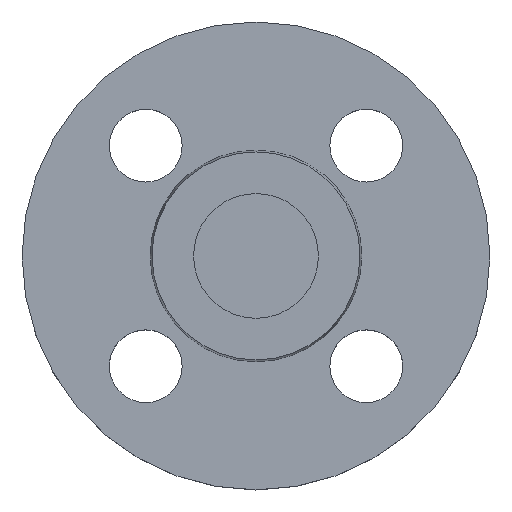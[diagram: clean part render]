
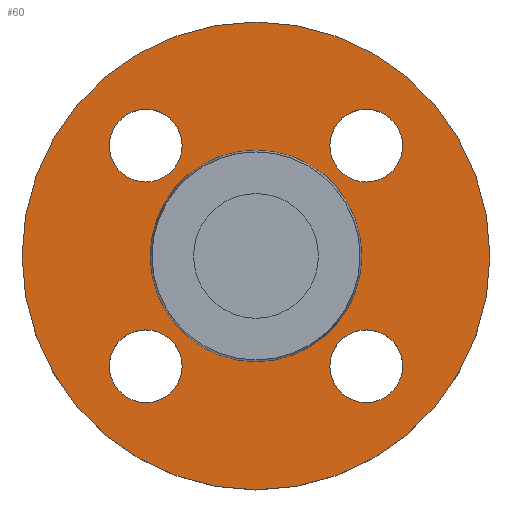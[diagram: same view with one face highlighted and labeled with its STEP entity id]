
A CAD part, top view. The second image highlights one B-rep face of the part: STEP entity #60.
In plain terms, the highlighted planar face has unit normal (0, 0, 1).
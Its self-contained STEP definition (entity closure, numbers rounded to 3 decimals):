
#4 = EDGE_CURVE ( 'NONE', #539, #370, #295, .T. ) ;
#6 = CARTESIAN_POINT ( 'NONE',  ( 28.213, 21.213, -2. ) ) ;
#56 = AXIS2_PLACEMENT_3D ( 'NONE', #601, #602, #603 ) ;
#58 = DIRECTION ( 'NONE',  ( 1., 0., 0. ) ) ;
#60 = ADVANCED_FACE ( 'NONE', ( #592, #593, #594, #595, #596, #597 ), #600, .T. ) ;
#63 = CARTESIAN_POINT ( 'NONE',  ( -21.213, -21.213, -2. ) ) ;
#64 = DIRECTION ( 'NONE',  ( 0., 0., -1. ) ) ;
#71 = CIRCLE ( 'NONE', #85, 7. ) ;
#76 = DIRECTION ( 'NONE',  ( -1., 0., 0. ) ) ;
#77 = DIRECTION ( 'NONE',  ( 0., 0., -1. ) ) ;
#78 = CARTESIAN_POINT ( 'NONE',  ( 0., 0., -2. ) ) ;
#80 = EDGE_CURVE ( 'NONE', #414, #548, #71, .T. ) ;
#81 = AXIS2_PLACEMENT_3D ( 'NONE', #78, #77, #76 ) ;
#85 = AXIS2_PLACEMENT_3D ( 'NONE', #604, #605, #606 ) ;
#87 = CIRCLE ( 'NONE', #102, 7. ) ;
#90 = EDGE_CURVE ( 'NONE', #474, #381, #87, .T. ) ;
#94 = DIRECTION ( 'NONE',  ( 1., 0., 0. ) ) ;
#95 = DIRECTION ( 'NONE',  ( 0., 0., -1. ) ) ;
#96 = CARTESIAN_POINT ( 'NONE',  ( 21.213, -21.213, -2. ) ) ;
#102 = AXIS2_PLACEMENT_3D ( 'NONE', #607, #608, #609 ) ;
#104 = CARTESIAN_POINT ( 'NONE',  ( 14.213, 21.213, -2. ) ) ;
#106 = DIRECTION ( 'NONE',  ( -1., 0., 0. ) ) ;
#107 = CARTESIAN_POINT ( 'NONE',  ( 0., 0., -2. ) ) ;
#108 = DIRECTION ( 'NONE',  ( 0., 0., -1. ) ) ;
#109 = CARTESIAN_POINT ( 'NONE',  ( -45., 0., -2. ) ) ;
#113 = CARTESIAN_POINT ( 'NONE',  ( 20.353, 0., -2. ) ) ;
#116 = DIRECTION ( 'NONE',  ( 0., 0., -1. ) ) ;
#117 = CARTESIAN_POINT ( 'NONE',  ( 0., 0., -2. ) ) ;
#118 = DIRECTION ( 'NONE',  ( -1., 0., 0. ) ) ;
#124 = AXIS2_PLACEMENT_3D ( 'NONE', #117, #307, #118 ) ;
#131 = CARTESIAN_POINT ( 'NONE',  ( -14.213, -21.213, -2. ) ) ;
#134 = CARTESIAN_POINT ( 'NONE',  ( -28.213, 21.213, -2. ) ) ;
#149 = CARTESIAN_POINT ( 'NONE',  ( -28.213, -21.213, -2. ) ) ;
#154 = CARTESIAN_POINT ( 'NONE',  ( 28.213, -21.213, -2. ) ) ;
#155 = CARTESIAN_POINT ( 'NONE',  ( -20.353, 0., -2. ) ) ;
#167 = CIRCLE ( 'NONE', #124, 20.353 ) ;
#176 = CIRCLE ( 'NONE', #178, 45. ) ;
#178 = AXIS2_PLACEMENT_3D ( 'NONE', #652, #653, #655 ) ;
#181 = CIRCLE ( 'NONE', #716, 7. ) ;
#193 = CIRCLE ( 'NONE', #196, 7. ) ;
#195 = CIRCLE ( 'NONE', #263, 20.353 ) ;
#196 = AXIS2_PLACEMENT_3D ( 'NONE', #661, #662, #663 ) ;
#211 = AXIS2_PLACEMENT_3D ( 'NONE', #338, #116, #309 ) ;
#214 = EDGE_CURVE ( 'NONE', #543, #427, #176, .T. ) ;
#227 = CARTESIAN_POINT ( 'NONE',  ( -21.213, 21.213, -2. ) ) ;
#228 = DIRECTION ( 'NONE',  ( 0., 0., -1. ) ) ;
#229 = DIRECTION ( 'NONE',  ( 1., 0., 0. ) ) ;
#232 = EDGE_CURVE ( 'NONE', #545, #536, #193, .T. ) ;
#263 = AXIS2_PLACEMENT_3D ( 'NONE', #107, #108, #106 ) ;
#292 = AXIS2_PLACEMENT_3D ( 'NONE', #563, #565, #566 ) ;
#295 = CIRCLE ( 'NONE', #292, 7. ) ;
#307 = DIRECTION ( 'NONE',  ( 0., 0., -1. ) ) ;
#309 = DIRECTION ( 'NONE',  ( 1., 0., 0. ) ) ;
#319 = CARTESIAN_POINT ( 'NONE',  ( 14.213, -21.213, -2. ) ) ;
#322 = CARTESIAN_POINT ( 'NONE',  ( 45., 0., -2. ) ) ;
#323 = CARTESIAN_POINT ( 'NONE',  ( -14.213, 21.213, -2. ) ) ;
#338 = CARTESIAN_POINT ( 'NONE',  ( 21.213, 21.213, -2. ) ) ;
#339 = EDGE_CURVE ( 'NONE', #536, #545, #399, .T. ) ;
#356 = EDGE_CURVE ( 'NONE', #551, #437, #195, .T. ) ;
#367 = EDGE_LOOP ( 'NONE', ( #461, #462 ) ) ;
#370 = VERTEX_POINT ( 'NONE', #154 ) ;
#381 = VERTEX_POINT ( 'NONE', #149 ) ;
#385 = EDGE_LOOP ( 'NONE', ( #452, #453 ) ) ;
#387 = EDGE_LOOP ( 'NONE', ( #459, #460 ) ) ;
#399 = CIRCLE ( 'NONE', #502, 7. ) ;
#400 = EDGE_LOOP ( 'NONE', ( #457, #458 ) ) ;
#401 = EDGE_LOOP ( 'NONE', ( #455, #456 ) ) ;
#404 = CIRCLE ( 'NONE', #81, 45. ) ;
#414 = VERTEX_POINT ( 'NONE', #104 ) ;
#427 = VERTEX_POINT ( 'NONE', #109 ) ;
#437 = VERTEX_POINT ( 'NONE', #113 ) ;
#452 = ORIENTED_EDGE ( 'NONE', *, *, #586, .T. ) ;
#453 = ORIENTED_EDGE ( 'NONE', *, *, #4, .T. ) ;
#455 = ORIENTED_EDGE ( 'NONE', *, *, #90, .T. ) ;
#456 = ORIENTED_EDGE ( 'NONE', *, *, #704, .T. ) ;
#457 = ORIENTED_EDGE ( 'NONE', *, *, #232, .T. ) ;
#458 = ORIENTED_EDGE ( 'NONE', *, *, #339, .T. ) ;
#459 = ORIENTED_EDGE ( 'NONE', *, *, #504, .T. ) ;
#460 = ORIENTED_EDGE ( 'NONE', *, *, #80, .T. ) ;
#461 = ORIENTED_EDGE ( 'NONE', *, *, #356, .T. ) ;
#462 = ORIENTED_EDGE ( 'NONE', *, *, #475, .T. ) ;
#463 = ORIENTED_EDGE ( 'NONE', *, *, #214, .F. ) ;
#464 = ORIENTED_EDGE ( 'NONE', *, *, #676, .F. ) ;
#474 = VERTEX_POINT ( 'NONE', #131 ) ;
#475 = EDGE_CURVE ( 'NONE', #437, #551, #167, .T. ) ;
#477 = AXIS2_PLACEMENT_3D ( 'NONE', #63, #64, #58 ) ;
#502 = AXIS2_PLACEMENT_3D ( 'NONE', #227, #228, #229 ) ;
#504 = EDGE_CURVE ( 'NONE', #548, #414, #598, .T. ) ;
#536 = VERTEX_POINT ( 'NONE', #134 ) ;
#539 = VERTEX_POINT ( 'NONE', #319 ) ;
#543 = VERTEX_POINT ( 'NONE', #322 ) ;
#545 = VERTEX_POINT ( 'NONE', #323 ) ;
#548 = VERTEX_POINT ( 'NONE', #6 ) ;
#551 = VERTEX_POINT ( 'NONE', #155 ) ;
#562 = EDGE_LOOP ( 'NONE', ( #463, #464 ) ) ;
#563 = CARTESIAN_POINT ( 'NONE',  ( 21.213, -21.213, -2. ) ) ;
#565 = DIRECTION ( 'NONE',  ( 0., 0., -1. ) ) ;
#566 = DIRECTION ( 'NONE',  ( 1., 0., 0. ) ) ;
#586 = EDGE_CURVE ( 'NONE', #370, #539, #181, .T. ) ;
#592 = FACE_BOUND ( 'NONE', #385, .T. ) ;
#593 = FACE_BOUND ( 'NONE', #401, .T. ) ;
#594 = FACE_BOUND ( 'NONE', #400, .T. ) ;
#595 = FACE_BOUND ( 'NONE', #387, .T. ) ;
#596 = FACE_BOUND ( 'NONE', #367, .T. ) ;
#597 = FACE_OUTER_BOUND ( 'NONE', #562, .T. ) ;
#598 = CIRCLE ( 'NONE', #211, 7. ) ;
#600 = PLANE ( 'NONE',  #56 ) ;
#601 = CARTESIAN_POINT ( 'NONE',  ( 20.353, 0., -2. ) ) ;
#602 = DIRECTION ( 'NONE',  ( 0., 0., 1. ) ) ;
#603 = DIRECTION ( 'NONE',  ( 1., 0., 0. ) ) ;
#604 = CARTESIAN_POINT ( 'NONE',  ( 21.213, 21.213, -2. ) ) ;
#605 = DIRECTION ( 'NONE',  ( 0., 0., -1. ) ) ;
#606 = DIRECTION ( 'NONE',  ( 1., 0., 0. ) ) ;
#607 = CARTESIAN_POINT ( 'NONE',  ( -21.213, -21.213, -2. ) ) ;
#608 = DIRECTION ( 'NONE',  ( 0., 0., -1. ) ) ;
#609 = DIRECTION ( 'NONE',  ( 1., 0., 0. ) ) ;
#640 = CIRCLE ( 'NONE', #477, 7. ) ;
#652 = CARTESIAN_POINT ( 'NONE',  ( 0., 0., -2. ) ) ;
#653 = DIRECTION ( 'NONE',  ( 0., 0., -1. ) ) ;
#655 = DIRECTION ( 'NONE',  ( -1., 0., 0. ) ) ;
#661 = CARTESIAN_POINT ( 'NONE',  ( -21.213, 21.213, -2. ) ) ;
#662 = DIRECTION ( 'NONE',  ( 0., 0., -1. ) ) ;
#663 = DIRECTION ( 'NONE',  ( 1., 0., 0. ) ) ;
#676 = EDGE_CURVE ( 'NONE', #427, #543, #404, .T. ) ;
#704 = EDGE_CURVE ( 'NONE', #381, #474, #640, .T. ) ;
#716 = AXIS2_PLACEMENT_3D ( 'NONE', #96, #95, #94 ) ;
